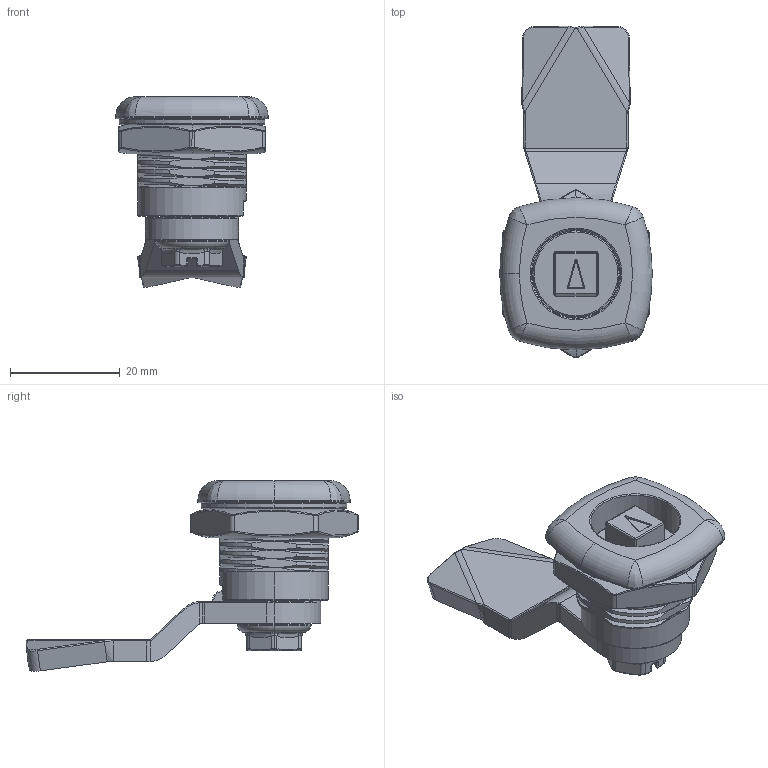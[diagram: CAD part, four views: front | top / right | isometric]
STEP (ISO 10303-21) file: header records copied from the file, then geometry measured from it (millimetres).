
FILE_DESCRIPTION (( 'STEP AP214' ), '1' );
FILE_NAME ('DLZ-704-4.STEP', '2019-02-22T07:15:16', ( '' ), ( '' ), 'SwSTEP 2.0', 'SolidWorks 2010', '' );
FILE_SCHEMA (( 'AUTOMOTIVE_DESIGN' ));
Length unit declared in the file: millimetre
Products named in the file (7): 基座; 防水墊片; 鎖芯; 六角螺母; DS1B4507-S; M6螺絲; DLZ-704-4
Assembly tree (6 placements, depth 2):
  DLZ-704-4
    基座
    六角螺母
    鎖芯
    M6螺絲
    防水墊片
    DS1B4507-S
Bounding box: 27.8 x 60.55 x 34.74 mm (x, y, z)
Volume: 11993.7 mm3; surface area: 10432.4 mm2
Topology: 6 solids, 6 shells, 791 faces, 1885 edges, 1079 vertices
Faces by surface type: cylinder 311, torus 162, plane 156, bspline 110, sphere 52
Entity records: 39936 total; most frequent: CARTESIAN_POINT 22342, ORIENTED_EDGE 3694, DIRECTION 3609, EDGE_CURVE 1847, AXIS2_PLACEMENT_3D 1515, VERTEX_POINT 1077, CIRCLE 825, EDGE_LOOP 808
